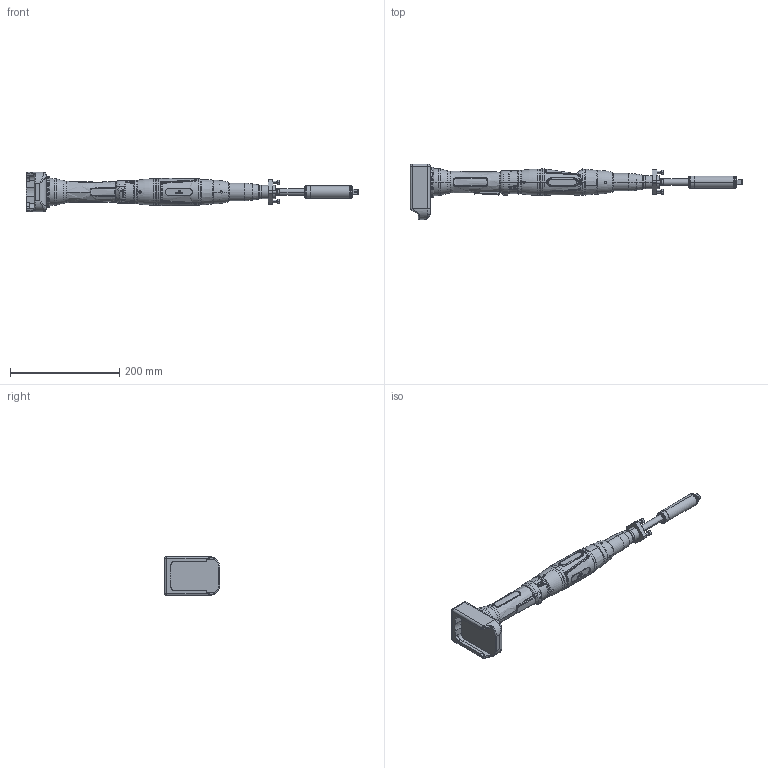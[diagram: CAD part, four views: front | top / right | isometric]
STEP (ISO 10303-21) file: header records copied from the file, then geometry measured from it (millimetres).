
FILE_DESCRIPTION (( 'STEP AP203' ), '1' );
FILE_NAME ('70122783_HSXBW1027ZF50.STEP', '2025-09-30T07:57:29', ( '' ), ( '' ), 'SwSTEP 2.0', 'SolidWorks 2020', '' );
FILE_SCHEMA (( 'CONFIG_CONTROL_DESIGN' ));
Length unit declared in the file: millimetre
Products named in the file (5): 7002230_3; 70122760; 70122778; 70122783_HSXBW1027ZF50; 70206244
Assembly tree (4 placements, depth 2):
  70122783_HSXBW1027ZF50
    70122760
    70206244
    70122778
    7002230_3
Bounding box: 606.6 x 101 x 72 mm (x, y, z)
Volume: 779077.4 mm3; surface area: 123317.3 mm2
Topology: 10 solids, 10 shells, 1307 faces, 3285 edges, 2044 vertices
Faces by surface type: cylinder 393, plane 360, bspline 317, torus 140, cone 89, sphere 8
Entity records: 62456 total; most frequent: CARTESIAN_POINT 33176, ORIENTED_EDGE 6514, DIRECTION 5306, EDGE_CURVE 3257, AXIS2_PLACEMENT_3D 2075, VERTEX_POINT 2044, EDGE_LOOP 1397, FACE_OUTER_BOUND 1307
